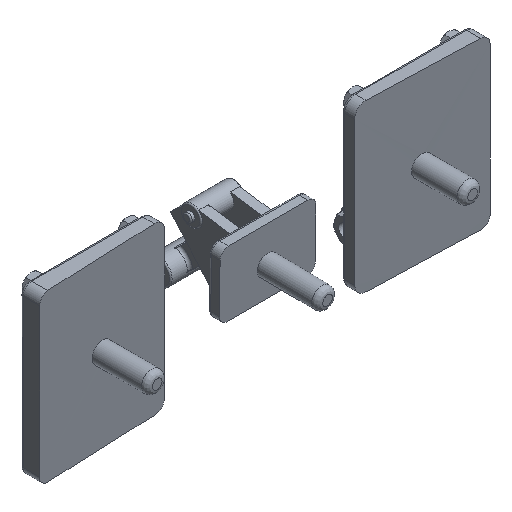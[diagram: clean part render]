
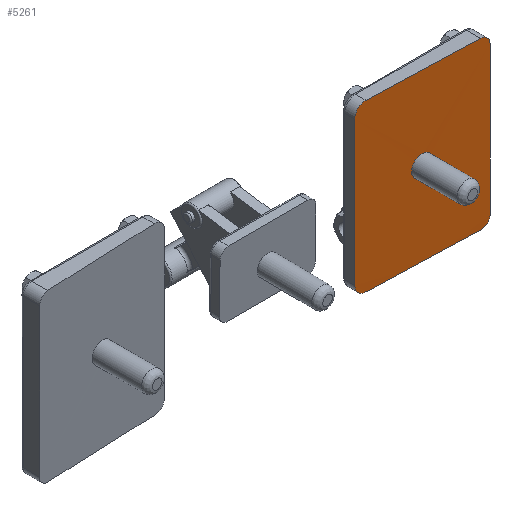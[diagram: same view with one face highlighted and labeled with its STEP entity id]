
A CAD part, isometric view. The second image highlights one B-rep face of the part: STEP entity #5261.
In plain terms, the highlighted cylindrical face has radius 533.956 mm (diameter 1067.91 mm), a partial arc.
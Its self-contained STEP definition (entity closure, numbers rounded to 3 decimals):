
#39=FACE_BOUND('',#1667,.T.);
#54=B_SPLINE_CURVE_WITH_KNOTS('',3,(#7575,#7576,#7577,#7578,#7579,#7580,
#7581,#7582,#7583,#7584),.UNSPECIFIED.,.F.,.F.,(4,2,2,2,4),(0.287,
0.311,0.335,0.359,0.383),
 .UNSPECIFIED.);
#55=B_SPLINE_CURVE_WITH_KNOTS('',3,(#7592,#7593,#7594,#7595,#7596,#7597,
#7598,#7599,#7600,#7601),.UNSPECIFIED.,.F.,.F.,(4,2,2,2,4),(0.482,
0.512,0.543,0.573,0.603),
 .UNSPECIFIED.);
#118=B_SPLINE_CURVE_WITH_KNOTS('',3,(#8616,#8617,#8618,#8619,#8620,#8621,
#8622,#8623,#8624,#8625),.UNSPECIFIED.,.F.,.F.,(4,2,2,2,4),(0.121,
0.151,0.181,0.211,0.241),
 .UNSPECIFIED.);
#119=B_SPLINE_CURVE_WITH_KNOTS('',3,(#8628,#8629,#8630,#8631,#8632,#8633,
#8634,#8635,#8636,#8637),.UNSPECIFIED.,.F.,.F.,(4,2,2,2,4),(0.191,
0.215,0.239,0.263,0.287),
 .UNSPECIFIED.);
#120=B_SPLINE_CURVE_WITH_KNOTS('',3,(#8639,#8640,#8641,#8642,#8643,#8644,
#8645,#8646,#8647,#8648,#8649,#8650,#8651,#8652,#8653,#8654,#8655,#8656,
#8657,#8658,#8659,#8660,#8661,#8662,#8663,#8664,#8665,#8666,#8667,#8668,
#8669,#8670,#8671,#8672),.UNSPECIFIED.,.T.,.F.,(4,2,2,2,2,2,2,2,2,2,2,2,
2,2,2,2,4),(0.,0.028,0.057,0.085,
0.113,0.141,0.17,0.198,
0.226,0.254,0.283,0.311,
0.339,0.367,0.396,0.424,0.452),
 .UNSPECIFIED.);
#486=LINE('',#7570,#856);
#564=LINE('',#8614,#934);
#856=VECTOR('',#6139,10.);
#934=VECTOR('',#6387,10.);
#1236=CYLINDRICAL_SURFACE('',#5639,533.956);
#1356=FACE_OUTER_BOUND('',#1666,.T.);
#1666=EDGE_LOOP('',(#3869,#3870,#3871,#3872,#3873,#3874,#3875,#3876));
#1667=EDGE_LOOP('',(#3877));
#1938=CIRCLE('',#5557,533.956);
#1967=CIRCLE('',#5640,533.956);
#2147=VERTEX_POINT('',#7567);
#2148=VERTEX_POINT('',#7569);
#2149=VERTEX_POINT('',#7573);
#2150=VERTEX_POINT('',#7586);
#2151=VERTEX_POINT('',#7590);
#2265=VERTEX_POINT('',#8613);
#2266=VERTEX_POINT('',#8615);
#2267=VERTEX_POINT('',#8626);
#2268=VERTEX_POINT('',#8638);
#2693=EDGE_CURVE('',#2147,#2148,#486,.T.);
#2696=EDGE_CURVE('',#2149,#2147,#54,.T.);
#2698=EDGE_CURVE('',#2150,#2149,#1938,.F.);
#2700=EDGE_CURVE('',#2151,#2150,#55,.T.);
#2868=EDGE_CURVE('',#2151,#2265,#564,.T.);
#2869=EDGE_CURVE('',#2266,#2265,#118,.T.);
#2870=EDGE_CURVE('',#2267,#2266,#1967,.F.);
#2871=EDGE_CURVE('',#2148,#2267,#119,.T.);
#2872=EDGE_CURVE('',#2268,#2268,#120,.T.);
#3869=ORIENTED_EDGE('',*,*,#2700,.F.);
#3870=ORIENTED_EDGE('',*,*,#2868,.T.);
#3871=ORIENTED_EDGE('',*,*,#2869,.F.);
#3872=ORIENTED_EDGE('',*,*,#2870,.F.);
#3873=ORIENTED_EDGE('',*,*,#2871,.F.);
#3874=ORIENTED_EDGE('',*,*,#2693,.F.);
#3875=ORIENTED_EDGE('',*,*,#2696,.F.);
#3876=ORIENTED_EDGE('',*,*,#2698,.F.);
#3877=ORIENTED_EDGE('',*,*,#2872,.T.);
#5261=ADVANCED_FACE('',(#1356,#39),#1236,.F.);
#5557=AXIS2_PLACEMENT_3D('',#7588,#6147,#6148);
#5639=AXIS2_PLACEMENT_3D('',#8612,#6385,#6386);
#5640=AXIS2_PLACEMENT_3D('',#8627,#6388,#6389);
#6139=DIRECTION('',(0.,0.,-1.));
#6147=DIRECTION('center_axis',(0.,0.,
1.));
#6148=DIRECTION('ref_axis',(0.,1.,0.));
#6385=DIRECTION('center_axis',(0.,0.,-1.));
#6386=DIRECTION('ref_axis',(0.,1.,0.));
#6387=DIRECTION('',(0.,0.,-1.));
#6388=DIRECTION('center_axis',(0.,0.,
-1.));
#6389=DIRECTION('ref_axis',(0.,1.,0.));
#7567=CARTESIAN_POINT('',(-491.017,41.362,-128.356));
#7569=CARTESIAN_POINT('',(-491.017,41.362,-139.194));
#7570=CARTESIAN_POINT('',(-491.017,41.362,-143.586));
#7573=CARTESIAN_POINT('',(-491.652,41.39,-127.721));
#7575=CARTESIAN_POINT('Ctrl Pts',(-491.652,41.39,-127.721));
#7576=CARTESIAN_POINT('Ctrl Pts',(-491.572,41.386,-127.721));
#7577=CARTESIAN_POINT('Ctrl Pts',(-491.487,41.383,-127.736));
#7578=CARTESIAN_POINT('Ctrl Pts',(-491.331,41.376,-127.801));
#7579=CARTESIAN_POINT('Ctrl Pts',(-491.259,41.373,-127.85));
#7580=CARTESIAN_POINT('Ctrl Pts',(-491.147,41.368,-127.963));
#7581=CARTESIAN_POINT('Ctrl Pts',(-491.098,41.366,-128.034));
#7582=CARTESIAN_POINT('Ctrl Pts',(-491.033,41.363,-128.191));
#7583=CARTESIAN_POINT('Ctrl Pts',(-491.017,41.362,-128.276));
#7584=CARTESIAN_POINT('Ctrl Pts',(-491.017,41.362,-128.356));
#7586=CARTESIAN_POINT('',(-499.75,41.673,-127.721));
#7588=CARTESIAN_POINT('Origin',(-514.404,-492.081,-127.721));
#7590=CARTESIAN_POINT('',(-500.55,41.695,-128.521));
#7592=CARTESIAN_POINT('Ctrl Pts',(-500.55,41.695,-128.521));
#7593=CARTESIAN_POINT('Ctrl Pts',(-500.55,41.695,-128.42));
#7594=CARTESIAN_POINT('Ctrl Pts',(-500.53,41.694,-128.313));
#7595=CARTESIAN_POINT('Ctrl Pts',(-500.448,41.692,-128.116));
#7596=CARTESIAN_POINT('Ctrl Pts',(-500.386,41.69,-128.026));
#7597=CARTESIAN_POINT('Ctrl Pts',(-500.244,41.687,-127.884));
#7598=CARTESIAN_POINT('Ctrl Pts',(-500.154,41.684,-127.822));
#7599=CARTESIAN_POINT('Ctrl Pts',(-499.957,41.679,-127.741));
#7600=CARTESIAN_POINT('Ctrl Pts',(-499.85,41.676,-127.721));
#7601=CARTESIAN_POINT('Ctrl Pts',(-499.75,41.673,-127.721));
#8612=CARTESIAN_POINT('Origin',(-514.404,-492.081,-143.586));
#8613=CARTESIAN_POINT('',(-500.55,41.695,-139.029));
#8614=CARTESIAN_POINT('',(-500.55,41.695,-143.586));
#8615=CARTESIAN_POINT('',(-499.75,41.673,-139.829));
#8616=CARTESIAN_POINT('Ctrl Pts',(-499.75,41.673,-139.829));
#8617=CARTESIAN_POINT('Ctrl Pts',(-499.85,41.676,-139.829));
#8618=CARTESIAN_POINT('Ctrl Pts',(-499.957,41.679,-139.809));
#8619=CARTESIAN_POINT('Ctrl Pts',(-500.154,41.684,-139.727));
#8620=CARTESIAN_POINT('Ctrl Pts',(-500.244,41.687,-139.666));
#8621=CARTESIAN_POINT('Ctrl Pts',(-500.386,41.69,-139.524));
#8622=CARTESIAN_POINT('Ctrl Pts',(-500.448,41.692,-139.434));
#8623=CARTESIAN_POINT('Ctrl Pts',(-500.53,41.694,-139.237));
#8624=CARTESIAN_POINT('Ctrl Pts',(-500.55,41.695,-139.13));
#8625=CARTESIAN_POINT('Ctrl Pts',(-500.55,41.695,-139.029));
#8626=CARTESIAN_POINT('',(-491.652,41.39,-139.829));
#8627=CARTESIAN_POINT('Origin',(-514.404,-492.081,-139.829));
#8628=CARTESIAN_POINT('Ctrl Pts',(-491.017,41.362,-139.194));
#8629=CARTESIAN_POINT('Ctrl Pts',(-491.017,41.362,-139.274));
#8630=CARTESIAN_POINT('Ctrl Pts',(-491.033,41.363,-139.359));
#8631=CARTESIAN_POINT('Ctrl Pts',(-491.098,41.366,-139.515));
#8632=CARTESIAN_POINT('Ctrl Pts',(-491.147,41.368,-139.587));
#8633=CARTESIAN_POINT('Ctrl Pts',(-491.259,41.373,-139.699));
#8634=CARTESIAN_POINT('Ctrl Pts',(-491.331,41.376,-139.748));
#8635=CARTESIAN_POINT('Ctrl Pts',(-491.487,41.383,-139.813));
#8636=CARTESIAN_POINT('Ctrl Pts',(-491.572,41.386,-139.829));
#8637=CARTESIAN_POINT('Ctrl Pts',(-491.652,41.39,-139.829));
#8638=CARTESIAN_POINT('',(-496.53,41.575,-133.775));
#8639=CARTESIAN_POINT('Ctrl Pts',(-496.53,41.575,-133.775));
#8640=CARTESIAN_POINT('Ctrl Pts',(-496.53,41.575,-133.681));
#8641=CARTESIAN_POINT('Ctrl Pts',(-496.511,41.575,-133.58));
#8642=CARTESIAN_POINT('Ctrl Pts',(-496.434,41.572,-133.395));
#8643=CARTESIAN_POINT('Ctrl Pts',(-496.376,41.57,-133.311));
#8644=CARTESIAN_POINT('Ctrl Pts',(-496.243,41.566,-133.178));
#8645=CARTESIAN_POINT('Ctrl Pts',(-496.159,41.563,-133.12));
#8646=CARTESIAN_POINT('Ctrl Pts',(-495.974,41.556,-133.044));
#8647=CARTESIAN_POINT('Ctrl Pts',(-495.874,41.553,-133.025));
#8648=CARTESIAN_POINT('Ctrl Pts',(-495.685,41.546,-133.025));
#8649=CARTESIAN_POINT('Ctrl Pts',(-495.585,41.543,-133.044));
#8650=CARTESIAN_POINT('Ctrl Pts',(-495.4,41.536,-133.12));
#8651=CARTESIAN_POINT('Ctrl Pts',(-495.316,41.533,-133.178));
#8652=CARTESIAN_POINT('Ctrl Pts',(-495.183,41.528,-133.311));
#8653=CARTESIAN_POINT('Ctrl Pts',(-495.125,41.526,-133.395));
#8654=CARTESIAN_POINT('Ctrl Pts',(-495.048,41.524,-133.58));
#8655=CARTESIAN_POINT('Ctrl Pts',(-495.03,41.523,-133.681));
#8656=CARTESIAN_POINT('Ctrl Pts',(-495.03,41.523,-133.869));
#8657=CARTESIAN_POINT('Ctrl Pts',(-495.048,41.524,-133.969));
#8658=CARTESIAN_POINT('Ctrl Pts',(-495.125,41.526,-134.154));
#8659=CARTESIAN_POINT('Ctrl Pts',(-495.183,41.528,-134.239));
#8660=CARTESIAN_POINT('Ctrl Pts',(-495.316,41.533,-134.372));
#8661=CARTESIAN_POINT('Ctrl Pts',(-495.4,41.536,-134.429));
#8662=CARTESIAN_POINT('Ctrl Pts',(-495.585,41.543,-134.506));
#8663=CARTESIAN_POINT('Ctrl Pts',(-495.685,41.546,-134.525));
#8664=CARTESIAN_POINT('Ctrl Pts',(-495.874,41.553,-134.525));
#8665=CARTESIAN_POINT('Ctrl Pts',(-495.974,41.556,-134.506));
#8666=CARTESIAN_POINT('Ctrl Pts',(-496.159,41.563,-134.429));
#8667=CARTESIAN_POINT('Ctrl Pts',(-496.243,41.566,-134.372));
#8668=CARTESIAN_POINT('Ctrl Pts',(-496.376,41.57,-134.239));
#8669=CARTESIAN_POINT('Ctrl Pts',(-496.434,41.572,-134.154));
#8670=CARTESIAN_POINT('Ctrl Pts',(-496.511,41.575,-133.969));
#8671=CARTESIAN_POINT('Ctrl Pts',(-496.53,41.575,-133.869));
#8672=CARTESIAN_POINT('Ctrl Pts',(-496.53,41.575,-133.775));
